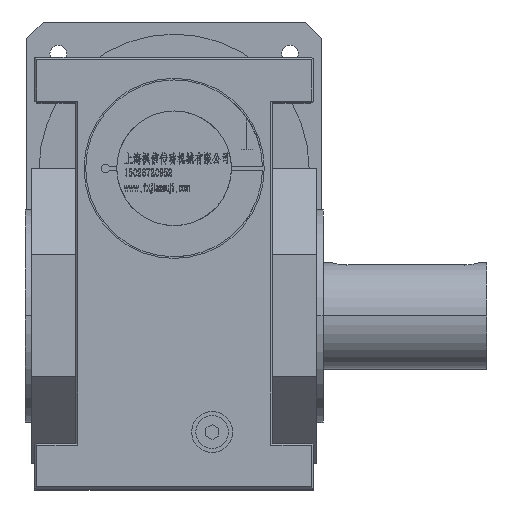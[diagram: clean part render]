
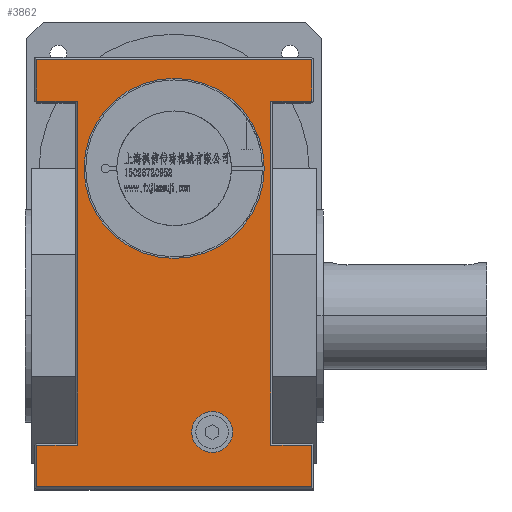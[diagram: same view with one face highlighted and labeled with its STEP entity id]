
A CAD part, top view. The second image highlights one B-rep face of the part: STEP entity #3862.
In plain terms, the highlighted planar face has unit normal (0, 0, 1).
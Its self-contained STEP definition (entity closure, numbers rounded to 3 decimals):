
#145 = LINE ( 'NONE', #89696, #27214 ) ;
#1139 = CARTESIAN_POINT ( 'NONE',  ( 23.262, -71., 114. ) ) ;
#1434 = DIRECTION ( 'NONE',  ( 0., 1., 0. ) ) ;
#1458 = LINE ( 'NONE', #34192, #53907 ) ;
#2199 = DIRECTION ( 'NONE',  ( 0., 0., 1. ) ) ;
#3096 = PLANE ( 'NONE',  #79382 ) ;
#3862 = ADVANCED_FACE ( 'NONE', ( #27244, #19726, #67457 ), #3096, .F. ) ;
#4335 = EDGE_LOOP ( 'NONE', ( #38679, #48858 ) ) ;
#4645 = ORIENTED_EDGE ( 'NONE', *, *, #65241, .T. ) ;
#5047 = EDGE_CURVE ( 'NONE', #83858, #39676, #59029, .T. ) ;
#5122 = LINE ( 'NONE', #37849, #66692 ) ;
#5664 = ORIENTED_EDGE ( 'NONE', *, *, #74910, .F. ) ;
#8786 = VECTOR ( 'NONE', #1434, 1000. ) ;
#8791 = LINE ( 'NONE', #42043, #50565 ) ;
#9346 = AXIS2_PLACEMENT_3D ( 'NONE', #18029, #85005, #36234 ) ;
#10714 = CARTESIAN_POINT ( 'NONE',  ( 85., 131., 114. ) ) ;
#11088 = CARTESIAN_POINT ( 'NONE',  ( -60., 131., 114. ) ) ;
#11654 = EDGE_CURVE ( 'NONE', #47333, #103452, #19681, .T. ) ;
#11683 = VERTEX_POINT ( 'NONE', #52911 ) ;
#12088 = ORIENTED_EDGE ( 'NONE', *, *, #81036, .T. ) ;
#12487 = ORIENTED_EDGE ( 'NONE', *, *, #30345, .F. ) ;
#13213 = CARTESIAN_POINT ( 'NONE',  ( -85., -79., 114. ) ) ;
#15519 = VERTEX_POINT ( 'NONE', #71671 ) ;
#15543 = ORIENTED_EDGE ( 'NONE', *, *, #25227, .T. ) ;
#15978 = CARTESIAN_POINT ( 'NONE',  ( 10.762, -71., 114. ) ) ;
#16247 = DIRECTION ( 'NONE',  ( 0., -1., 0. ) ) ;
#17245 = DIRECTION ( 'NONE',  ( 1., 0., 0. ) ) ;
#18029 = CARTESIAN_POINT ( 'NONE',  ( 0., 90., 114. ) ) ;
#18644 = VECTOR ( 'NONE', #25223, 1000. ) ;
#18719 = VERTEX_POINT ( 'NONE', #104800 ) ;
#19681 = LINE ( 'NONE', #13213, #23679 ) ;
#19726 = FACE_BOUND ( 'NONE', #4335, .T. ) ;
#20606 = LINE ( 'NONE', #52771, #92943 ) ;
#21439 = EDGE_CURVE ( 'NONE', #94389, #39610, #35762, .T. ) ;
#22354 = CARTESIAN_POINT ( 'NONE',  ( -84., -79., 114. ) ) ;
#23378 = VECTOR ( 'NONE', #99737, 1000. ) ;
#23679 = VECTOR ( 'NONE', #28781, 1000. ) ;
#24068 = DIRECTION ( 'NONE',  ( 0., 0., 1. ) ) ;
#24853 = AXIS2_PLACEMENT_3D ( 'NONE', #45757, #102041, #53260 ) ;
#25223 = DIRECTION ( 'NONE',  ( 1., 0., 0. ) ) ;
#25227 = EDGE_CURVE ( 'NONE', #98232, #11683, #8791, .T. ) ;
#25241 = LINE ( 'NONE', #10714, #94629 ) ;
#25954 = DIRECTION ( 'NONE',  ( 0., 1., 0. ) ) ;
#26850 = LINE ( 'NONE', #93267, #23378 ) ;
#27214 = VECTOR ( 'NONE', #16247, 1000. ) ;
#27244 = FACE_BOUND ( 'NONE', #35658, .T. ) ;
#28781 = DIRECTION ( 'NONE',  ( -1., 0., 0. ) ) ;
#30230 = EDGE_LOOP ( 'NONE', ( #80316, #104012, #79551, #12088, #71451, #92298, #98460, #4645, #54296, #55760, #71180, #15543 ) ) ;
#30345 = EDGE_CURVE ( 'NONE', #18719, #50133, #61043, .T. ) ;
#31276 = VERTEX_POINT ( 'NONE', #104658 ) ;
#33712 = CARTESIAN_POINT ( 'NONE',  ( 84., -104.5, 114. ) ) ;
#34192 = CARTESIAN_POINT ( 'NONE',  ( 84., -78., 114. ) ) ;
#35658 = EDGE_LOOP ( 'NONE', ( #12487, #5664 ) ) ;
#35762 = LINE ( 'NONE', #11088, #48453 ) ;
#35813 = CARTESIAN_POINT ( 'NONE',  ( 85., 158., 114. ) ) ;
#36179 = CARTESIAN_POINT ( 'NONE',  ( 55., 90., 114. ) ) ;
#36234 = DIRECTION ( 'NONE',  ( 0., 1., 0. ) ) ;
#36853 = CARTESIAN_POINT ( 'NONE',  ( 84., 131., 114. ) ) ;
#37849 = CARTESIAN_POINT ( 'NONE',  ( 85., 156.5, 114. ) ) ;
#38679 = ORIENTED_EDGE ( 'NONE', *, *, #5047, .F. ) ;
#39610 = VERTEX_POINT ( 'NONE', #42127 ) ;
#39676 = VERTEX_POINT ( 'NONE', #36179 ) ;
#40824 = CARTESIAN_POINT ( 'NONE',  ( -84., 131., 114. ) ) ;
#42043 = CARTESIAN_POINT ( 'NONE',  ( 59., 130., 114. ) ) ;
#42068 = VECTOR ( 'NONE', #43957, 1000. ) ;
#42127 = CARTESIAN_POINT ( 'NONE',  ( -59., 131., 114. ) ) ;
#43428 = DIRECTION ( 'NONE',  ( 1., 0., 0. ) ) ;
#43957 = DIRECTION ( 'NONE',  ( 0., -1., 0. ) ) ;
#45493 = EDGE_CURVE ( 'NONE', #68645, #76852, #51815, .T. ) ;
#45757 = CARTESIAN_POINT ( 'NONE',  ( 23.262, -71., 114. ) ) ;
#47333 = VERTEX_POINT ( 'NONE', #51584 ) ;
#48453 = VECTOR ( 'NONE', #78076, 1000. ) ;
#48858 = ORIENTED_EDGE ( 'NONE', *, *, #75849, .F. ) ;
#50133 = VERTEX_POINT ( 'NONE', #15978 ) ;
#50394 = LINE ( 'NONE', #99698, #18644 ) ;
#50565 = VECTOR ( 'NONE', #25954, 1000. ) ;
#50713 = EDGE_CURVE ( 'NONE', #91364, #98232, #20606, .T. ) ;
#50854 = EDGE_CURVE ( 'NONE', #11683, #68645, #25241, .T. ) ;
#51584 = CARTESIAN_POINT ( 'NONE',  ( -59., -79., 114. ) ) ;
#51815 = LINE ( 'NONE', #66860, #8786 ) ;
#52771 = CARTESIAN_POINT ( 'NONE',  ( 85., -79., 114. ) ) ;
#52911 = CARTESIAN_POINT ( 'NONE',  ( 59., 131., 114. ) ) ;
#53260 = DIRECTION ( 'NONE',  ( 1., 0., 0. ) ) ;
#53907 = VECTOR ( 'NONE', #99572, 1000. ) ;
#54296 = ORIENTED_EDGE ( 'NONE', *, *, #80511, .T. ) ;
#55760 = ORIENTED_EDGE ( 'NONE', *, *, #73942, .T. ) ;
#57824 = CARTESIAN_POINT ( 'NONE',  ( 0., 90., 114. ) ) ;
#59029 = CIRCLE ( 'NONE', #9346, 55. ) ;
#61043 = CIRCLE ( 'NONE', #69608, 12.5 ) ;
#65241 = EDGE_CURVE ( 'NONE', #103452, #15519, #68610, .T. ) ;
#66091 = AXIS2_PLACEMENT_3D ( 'NONE', #57824, #24068, #90530 ) ;
#66692 = VECTOR ( 'NONE', #79093, 1000. ) ;
#66860 = CARTESIAN_POINT ( 'NONE',  ( 84., 156.5, 114. ) ) ;
#67457 = FACE_OUTER_BOUND ( 'NONE', #30230, .T. ) ;
#67552 = CARTESIAN_POINT ( 'NONE',  ( -84., 158., 114. ) ) ;
#68511 = DIRECTION ( 'NONE',  ( 0., 0., -1. ) ) ;
#68610 = LINE ( 'NONE', #67552, #42068 ) ;
#68645 = VERTEX_POINT ( 'NONE', #36853 ) ;
#69104 = EDGE_CURVE ( 'NONE', #39610, #47333, #26850, .T. ) ;
#69608 = AXIS2_PLACEMENT_3D ( 'NONE', #1139, #2199, #17245 ) ;
#71053 = CIRCLE ( 'NONE', #24853, 12.5 ) ;
#71180 = ORIENTED_EDGE ( 'NONE', *, *, #50713, .T. ) ;
#71451 = ORIENTED_EDGE ( 'NONE', *, *, #21439, .T. ) ;
#71671 = CARTESIAN_POINT ( 'NONE',  ( -84., -104.5, 114. ) ) ;
#73942 = EDGE_CURVE ( 'NONE', #77010, #91364, #1458, .T. ) ;
#74910 = EDGE_CURVE ( 'NONE', #50133, #18719, #71053, .T. ) ;
#75849 = EDGE_CURVE ( 'NONE', #39676, #83858, #88350, .T. ) ;
#76852 = VERTEX_POINT ( 'NONE', #87362 ) ;
#77010 = VERTEX_POINT ( 'NONE', #33712 ) ;
#77954 = DIRECTION ( 'NONE',  ( -1., 0., 0. ) ) ;
#78076 = DIRECTION ( 'NONE',  ( 1., 0., 0. ) ) ;
#79093 = DIRECTION ( 'NONE',  ( -1., 0., 0. ) ) ;
#79382 = AXIS2_PLACEMENT_3D ( 'NONE', #35813, #68511, #83546 ) ;
#79551 = ORIENTED_EDGE ( 'NONE', *, *, #84370, .T. ) ;
#80316 = ORIENTED_EDGE ( 'NONE', *, *, #50854, .T. ) ;
#80511 = EDGE_CURVE ( 'NONE', #15519, #77010, #50394, .T. ) ;
#81036 = EDGE_CURVE ( 'NONE', #31276, #94389, #145, .T. ) ;
#83546 = DIRECTION ( 'NONE',  ( -1., 0., 0. ) ) ;
#83858 = VERTEX_POINT ( 'NONE', #87916 ) ;
#84304 = CARTESIAN_POINT ( 'NONE',  ( 84., -79., 114. ) ) ;
#84370 = EDGE_CURVE ( 'NONE', #76852, #31276, #5122, .T. ) ;
#85005 = DIRECTION ( 'NONE',  ( 0., 0., 1. ) ) ;
#87362 = CARTESIAN_POINT ( 'NONE',  ( 84., 156.5, 114. ) ) ;
#87916 = CARTESIAN_POINT ( 'NONE',  ( -55., 90., 114. ) ) ;
#88350 = CIRCLE ( 'NONE', #66091, 55. ) ;
#89696 = CARTESIAN_POINT ( 'NONE',  ( -84., 158., 114. ) ) ;
#90530 = DIRECTION ( 'NONE',  ( 0., 1., 0. ) ) ;
#90853 = CARTESIAN_POINT ( 'NONE',  ( 59., -79., 114. ) ) ;
#91364 = VERTEX_POINT ( 'NONE', #84304 ) ;
#92298 = ORIENTED_EDGE ( 'NONE', *, *, #69104, .T. ) ;
#92943 = VECTOR ( 'NONE', #77954, 1000. ) ;
#93267 = CARTESIAN_POINT ( 'NONE',  ( -59., -78., 114. ) ) ;
#94389 = VERTEX_POINT ( 'NONE', #40824 ) ;
#94629 = VECTOR ( 'NONE', #43428, 1000. ) ;
#98232 = VERTEX_POINT ( 'NONE', #90853 ) ;
#98460 = ORIENTED_EDGE ( 'NONE', *, *, #11654, .T. ) ;
#99572 = DIRECTION ( 'NONE',  ( 0., 1., 0. ) ) ;
#99698 = CARTESIAN_POINT ( 'NONE',  ( 85., -104.5, 114. ) ) ;
#99737 = DIRECTION ( 'NONE',  ( 0., -1., 0. ) ) ;
#102041 = DIRECTION ( 'NONE',  ( 0., 0., 1. ) ) ;
#103452 = VERTEX_POINT ( 'NONE', #22354 ) ;
#104012 = ORIENTED_EDGE ( 'NONE', *, *, #45493, .T. ) ;
#104658 = CARTESIAN_POINT ( 'NONE',  ( -84., 156.5, 114. ) ) ;
#104800 = CARTESIAN_POINT ( 'NONE',  ( 35.762, -71., 114. ) ) ;
